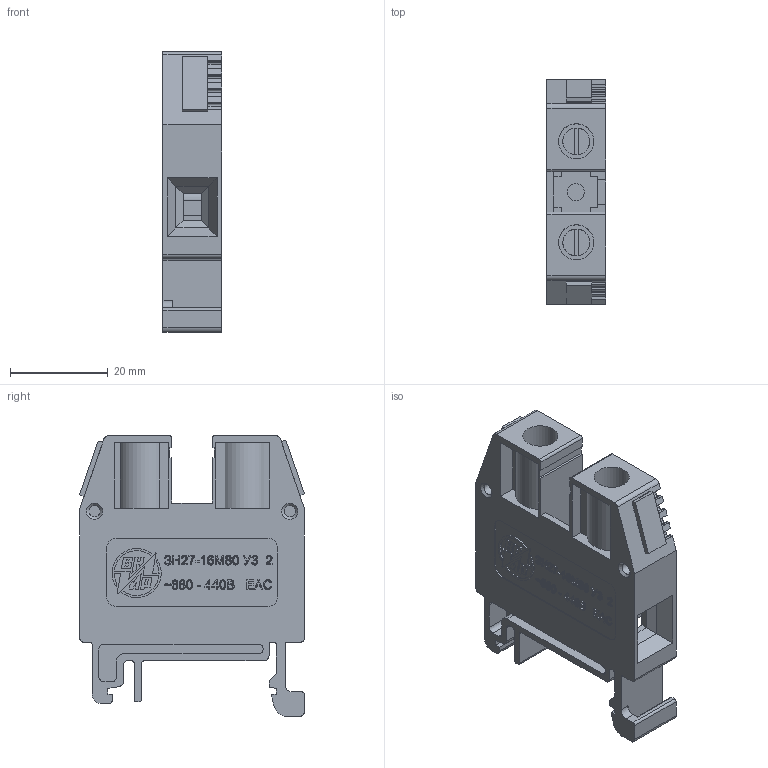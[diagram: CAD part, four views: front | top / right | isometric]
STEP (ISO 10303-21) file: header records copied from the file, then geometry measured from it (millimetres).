
FILE_DESCRIPTION(('STEP AP214'), '1');
FILE_NAME('ÇÍ27-16Ì80 òèï 2 áåç êðûøêè ÊÒ3', '', ('UNSPECIFIED'), ('UNSPECIFIED'), 'ASCON STEP Converter 1.6', 'ASCON Math Kernel', '');
FILE_SCHEMA(('AUTOMOTIVE_DESIGN { 1 0 10303 214 3 1 1}'));
Length unit declared in the file: millimetre
Bounding box: 12.1 x 46.05 x 57.5 mm (x, y, z)
Volume: 11779.8 mm3; surface area: 14688.8 mm2
Topology: 2 solids, 2 shells, 1717 faces, 4863 edges, 3199 vertices
Faces by surface type: cylinder 1017, plane 694, cone 6
Full cylindrical faces by diameter (mm): 2.34 x4, 3 x2, 3.5 x1, 5.2 x2, 5.5 x2, 7.2 x2
Entity records: 70079 total; most frequent: DIRECTION 10336, CARTESIAN_POINT 9761, ORIENTED_EDGE 9688, EDGE_CURVE 4844, AXIS2_PLACEMENT_3D 3774, VERTEX_POINT 3199, LINE 2788, VECTOR 2788
